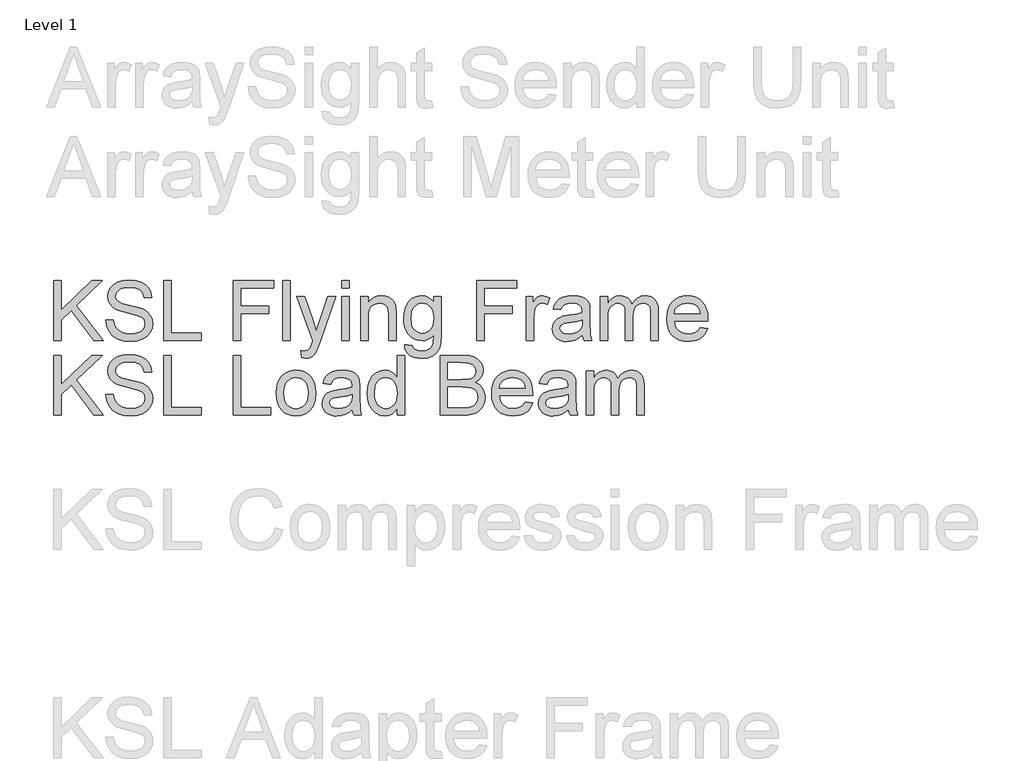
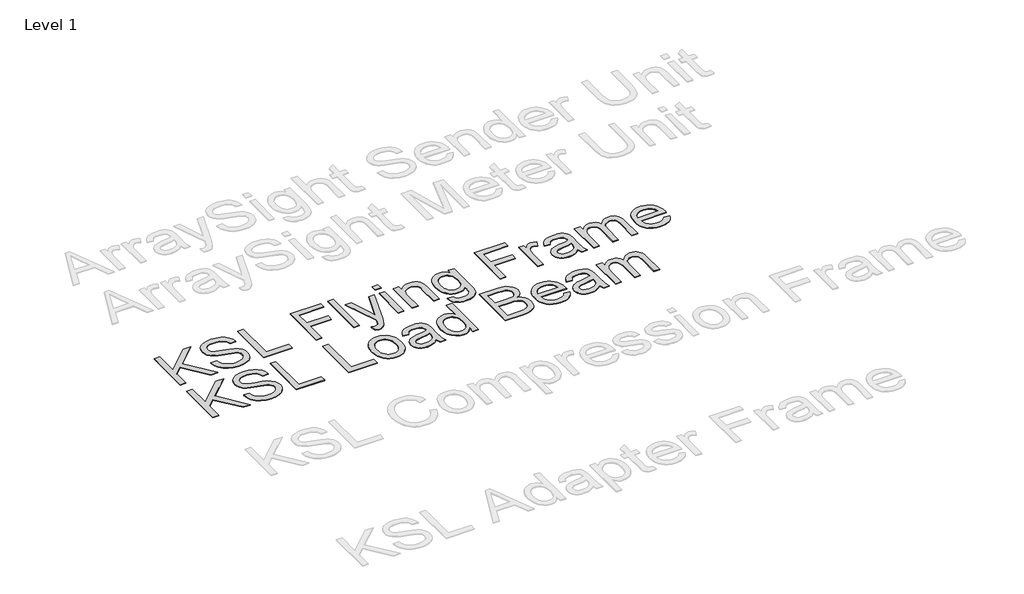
# One storey, part 10 of 52: 2 proxies.
"""IFC4 building model written with IfcOpenShell, lengths in millimetres."""

from ifc_helpers import new_model, si_unit, origin, origin_with_axes, place, context, project, spatial, polyline, outline, extrude, element, save

model = new_model("IFC4")

# Units and contexts
model_context = context("Model", 3, world=origin())
ifc_project = project(units=[si_unit("LENGTHUNIT", "METRE", prefix="MILLI")], contexts=[model_context])

# Site, building, storey
site = spatial("IfcSite", under=ifc_project)
building = spatial("IfcBuilding", under=site)
storey = spatial("IfcBuildingStorey", under=building, Name="Level 1", Elevation=0.0)

# Proxies
placement = place(None, origin())
element("IfcBuildingElementProxy", 1, Name="400mm Arial", ObjectType="400mm Arial", at=placement, inside=storey, context=model_context, shape_type="SweptSolid", body=[
    extrude(outline(polyline([(-18951.0715058, -55722.6117308), (-18951.0715058, -55320.7864902), (-18900.8433507, -55320.7864902), (-18900.8433507, -55517.4807303), (-18694.8294334, -55320.7864902), (-18624.5884978, -55320.7864902), (-18797.5420864, -55485.9900315), (-18618.3099784, -55722.6117308), (-18679.7217461, -55722.6117308), (-18833.1530636, -55519.933277), (-18900.8433507, -55584.4843044), (-18900.8433507, -55722.6117308), (-18951.0715058, -55722.6117308)])), origin_with_axes(), (0.0, 0.0, 1.0), 5.0),
    extrude(outline(polyline([(-18599.4744202, -55584.4843044), (-18549.2462652, -55584.4843044), (-18543.4827806, -55612.3574969), (-18533.0594574, -55634.7615104), (-18516.7990732, -55652.5424735), (-18493.5244056, -55666.5465148), (-18465.0748647, -55675.6332001), (-18433.2898603, -55678.6620952), (-18405.3063032, -55676.3689641), (-18380.8053623, -55669.4895707), (-18360.9519973, -55658.6002637), (-18346.9111678, -55644.2773913), (-18338.5602465, -55627.8330662), (-18335.7766061, -55610.5794006), (-18337.8612707, -55593.7671934), (-18344.1152646, -55579.2358546), (-18356.8194562, -55566.8382314), (-18378.2547138, -55556.4271709), (-18451.3896544, -55537.2482562), (-18499.3982548, -55524.5563274), (-18530.1164014, -55512.4775352), (-18555.1201143, -55495.5794889), (-18572.8397638, -55475.1007245), (-18583.397977, -55451.4827004), (-18586.9173815, -55425.166875), (-18582.5641112, -55395.7485781), (-18569.5043004, -55368.316844), (-18548.0813055, -55345.0667019), (-18518.6384832, -55328.1931811), (-18483.2972862, -55317.9292734), (-18444.1791673, -55314.5079709), (-18401.7991615, -55318.0886889), (-18364.7166564, -55328.8308432), (-18334.2560272, -55346.5137044), (-18311.7416491, -55370.9165435), (-18297.4923531, -55400.5187813), (-18291.8269704, -55433.7998392), (-18342.0551255, -55433.7998392), (-18351.2767008, -55403.8297193), (-18359.6398848, -55391.9716563), (-18370.5046664, -55382.198258), (-18400.5483627, -55369.1016589), (-18442.21713, -55364.7361259), (-18484.866916, -55369.052608), (-18501.1702198, -55374.4482106), (-18514.1257973, -55382.0020542), (-18531.0483691, -55401.0583416), (-18536.6892264, -55423.695347), (-18532.6915754, -55442.996889), (-18520.6986223, -55458.5215092), (-18492.3471832, -55472.4029232), (-18438.6854629, -55486.5786427), (-18383.3069599, -55500.0431238), (-18349.8051728, -55511.7908221), (-18321.1716909, -55530.0132436), (-18301.1956985, -55552.5030963), (-18289.4602629, -55579.0151254), (-18285.548451, -55609.3040763), (-18290.0488741, -55640.2674776), (-18303.5501433, -55669.3914689), (-18325.5004357, -55694.4564955), (-18355.3479282, -55713.2430027), (-18391.2409482, -55724.9784383), (-18431.327823, -55728.8902502), (-18480.5381712, -55724.67187), (-18521.0419789, -55712.0167294), (-18553.3052298, -55690.8757774), (-18577.793908, -55661.1999631), (-18593.5147319, -55625.0494257), (-18599.4744202, -55584.4843044)])), origin_with_axes(), (0.0, 0.0, 1.0), 5.0),
    extrude(outline(polyline([(-18210.2062184, -55722.6117308), (-18210.2062184, -55320.7864902), (-18159.9780633, -55320.7864902), (-18159.9780633, -55672.3835758), (-17959.065443, -55672.3835758), (-17959.065443, -55722.6117308), (-18210.2062184, -55722.6117308)])), origin_with_axes(), (0.0, 0.0, 1.0), 5.0),
    extrude(outline(polyline([(-17745.595784, -55722.6117308), (-17745.595784, -55320.7864902), (-17695.3676289, -55320.7864902), (-17695.3676289, -55672.3835758), (-17494.4550086, -55672.3835758), (-17494.4550086, -55722.6117308), (-17745.595784, -55722.6117308)])), origin_with_axes(), (0.0, 0.0, 1.0), 5.0),
    extrude(outline(polyline([(-17456.7838923, -55575.0665253), (-17454.0676969, -55536.8497174), (-17445.9191107, -55503.9181474), (-17432.3381337, -55476.2718155), (-17413.3247659, -55453.9107216), (-17394.1826394, -55439.6185061), (-17373.0539502, -55429.4097807), (-17349.9386981, -55423.2845455), (-17324.8368833, -55421.2428004), (-17297.1261721, -55423.7290695), (-17272.0703425, -55431.187877), (-17249.6693947, -55443.6192228), (-17229.9233286, -55461.0231068), (-17213.8070315, -55482.810918), (-17202.2953907, -55508.3940451), (-17195.3884063, -55537.7724881), (-17193.0860781, -55570.946247), (-17197.1573055, -55621.6894368), (-17209.3709878, -55660.3170463), (-17229.3715056, -55689.2448339), (-17256.8032397, -55710.8885579), (-17289.3853217, -55724.3898272), (-17324.8368833, -55728.8902502), (-17352.9522648, -55726.4131781), (-17378.2410863, -55718.9819618), (-17400.7033478, -55706.5966013), (-17420.3390493, -55689.2570966), (-17436.2836681, -55667.2577533), (-17447.6726815, -55640.892877), (-17454.5060896, -55610.1624677), (-17456.7838923, -55575.0665253)]), holes=[polyline([(-17406.5557372, -55574.9684234), (-17405.1026033, -55599.3314086), (-17400.7432017, -55620.4263753), (-17393.4775323, -55638.2533237), (-17383.3055951, -55652.8122536), (-17370.9324973, -55664.1215593), (-17357.0633461, -55672.1996348), (-17341.6981415, -55677.0464801), (-17324.8368833, -55678.6620952), (-17308.0614644, -55677.037283), (-17292.7575734, -55672.1628466), (-17278.9252103, -55664.0387858), (-17266.5643753, -55652.6651008), (-17256.3924381, -55637.9620838), (-17249.1267687, -55619.8500269), (-17244.7673671, -55598.3289301), (-17243.3142332, -55573.3987936), (-17244.7765641, -55549.8083607), (-17249.1635569, -55529.2652169), (-17256.4752116, -55511.7693624), (-17266.7115281, -55497.320797), (-17279.1183484, -55486.0114913), (-17292.9415144, -55477.9334159), (-17308.181026, -55473.0865706), (-17324.8368833, -55471.4709555), (-17341.6981415, -55473.0804392), (-17357.0633461, -55477.9088904), (-17370.9324973, -55485.956309), (-17383.3055951, -55497.2226951), (-17393.4775323, -55511.7387055), (-17400.7432017, -55529.534997), (-17405.1026033, -55550.6115697), (-17406.5557372, -55574.9684234)])]), origin_with_axes(), (0.0, 0.0, 1.0), 5.0),
    extrude(outline(polyline([(-16948.2238221, -55684.9406145), (-16972.221991, -55705.5174808), (-16996.9313983, -55718.9819618), (-17022.9161299, -55726.4131781), (-17050.7402715, -55728.8902502), (-17073.1044311, -55727.4003281), (-17092.7156071, -55722.9305619), (-17109.5737995, -55715.4809515), (-17123.6790084, -55705.0514969), (-17134.8166358, -55692.3043858), (-17142.7720839, -55677.9018057), (-17147.5453528, -55661.8437566), (-17149.1364424, -55644.1302385), (-17146.7329467, -55623.3081176), (-17139.5224596, -55604.3989831), (-17128.4001606, -55588.2121753), (-17114.2612293, -55575.5570346), (-17097.6452259, -55565.9921028), (-17079.0917106, -55559.0759213), (-17035.6325842, -55551.5220776), (-16984.2762577, -55543.5758265), (-16948.5181277, -55534.2561493), (-16948.2238221, -55523.0725367), (-16951.6819129, -55500.6562604), (-16962.0561852, -55485.9900315), (-16985.2572763, -55475.1007245), (-17017.581841, -55471.4709555), (-17047.5029099, -55473.8867139), (-17068.3986072, -55481.1339892), (-17082.6479032, -55494.5371566), (-17092.629768, -55515.4205912), (-17142.8579231, -55509.1420718), (-17134.1391198, -55481.6735495), (-17121.1283599, -55460.0911391), (-17102.6116328, -55443.5855002), (-17077.3749279, -55431.3472925), (-17046.5096285, -55423.7689234), (-17011.1071179, -55421.2428004), (-16977.1516097, -55423.4746178), (-16950.2349104, -55430.1700701), (-16929.940087, -55440.2377741), (-16915.8502066, -55452.5863464), (-16906.5060039, -55467.8534492), (-16900.4482137, -55486.6767446), (-16897.9956671, -55530.6263803), (-16897.9956671, -55593.1172685), (-16895.4450186, -55680.3788778), (-16885.4386283, -55722.6117308), (-16935.6667834, -55722.6117308), (-16943.7111363, -55705.1495988), (-16948.2238221, -55684.9406145)]), holes=[polyline([(-16948.2238221, -55584.4843044), (-16981.9708638, -55592.8474884), (-17029.2559629, -55599.8862973), (-17072.4698346, -55608.0287521), (-17083.714761, -55613.5960329), (-17092.0411568, -55621.2725039), (-17097.1915047, -55630.4695538), (-17098.9082874, -55640.5985714), (-17095.1681538, -55655.5345804), (-17083.9477529, -55667.7727881), (-17065.4923395, -55675.9397684), (-17040.0471681, -55678.6620952), (-17013.0691552, -55675.6577255), (-16989.2304019, -55666.6446166), (-16969.9043344, -55653.3640766), (-16956.4643788, -55637.5574136), (-16950.5046905, -55621.2725039), (-16948.5181277, -55598.7090749), (-16948.2238221, -55584.4843044)])]), origin_with_axes(), (0.0, 0.0, 1.0), 5.0),
    extrude(outline(polyline([(-16646.8548917, -55722.6117308), (-16646.8548917, -55675.2285299), (-16661.8828712, -55698.7055325), (-16680.0868986, -55715.4748201), (-16701.4669739, -55725.5363927), (-16726.0230971, -55728.8902502), (-16758.4948145, -55724.0342079), (-16788.2196797, -55709.4660809), (-16813.3828082, -55686.2036761), (-16832.1693154, -55655.2648003), (-16843.8679628, -55617.9002523), (-16847.767512, -55575.3608309), (-16844.1745312, -55533.3487071), (-16833.3955887, -55495.4078106), (-16815.4429474, -55463.6963826), (-16790.3288698, -55440.3726641), (-16759.9540797, -55426.0252663), (-16726.2193008, -55421.2428004), (-16701.6447835, -55424.664103), (-16679.9152203, -55434.9280106), (-16661.4965951, -55450.6610973), (-16646.8548917, -55470.4899368), (-16646.8548917, -55320.7864902), (-16596.6267366, -55320.7864902), (-16596.6267366, -55722.6117308), (-16646.8548917, -55722.6117308)]), holes=[polyline([(-16797.5393569, -55575.1646272), (-16796.1230112, -55599.5214809), (-16791.8739742, -55620.5980536), (-16784.7922458, -55638.3943451), (-16774.877826, -55652.9103555), (-16750.1806814, -55672.2241602), (-16736.3053988, -55677.0526114), (-16721.4123094, -55678.6620952), (-16706.4487092, -55677.1261878), (-16692.6562001, -55672.5184658), (-16668.5844549, -55654.0875779), (-16659.077771, -55640.1785728), (-16652.2872825, -55623.0260748), (-16646.8548917, -55578.9905999), (-16652.3853844, -55530.8471095), (-16659.2985002, -55512.3119883), (-16668.9768623, -55497.4679498), (-16680.6785755, -55486.0942648), (-16693.6617442, -55477.9702041), (-16707.9263686, -55473.0957676), (-16723.4724486, -55471.4709555), (-16738.6598436, -55473.0313883), (-16752.5351262, -55477.7126867), (-16765.0982963, -55485.5148506), (-16776.349354, -55496.4378802), (-16785.6199803, -55510.7208987), (-16792.2418562, -55528.6030293), (-16797.5393569, -55575.1646272)])]), origin_with_axes(), (0.0, 0.0, 1.0), 5.0),
    extrude(outline(polyline([(-16358.043, -55722.6117308), (-16358.043, -55320.7864902), (-16204.7097844, -55320.7864902), (-16162.538245, -55323.7418089), (-16129.6128065, -55332.607765), (-16104.3761016, -55347.6050877), (-16085.2707633, -55368.9545061), (-16073.2410221, -55394.0685837), (-16069.2311083, -55420.3598836), (-16072.60336, -55444.5542562), (-16082.7201148, -55467.3016262), (-16099.6549493, -55487.2040421), (-16123.4814399, -55502.8635524), (-16095.0196362, -55517.725985), (-16073.9890488, -55540.338465), (-16061.0028144, -55569.2049389), (-16056.6740696, -55602.8293532), (-16059.6293883, -55630.8496985), (-16068.4953443, -55656.8344301), (-16081.7268334, -55678.9318753), (-16097.7787512, -55695.2903613), (-16117.4359124, -55707.1361616), (-16141.4831322, -55715.6955493), (-16170.7052253, -55720.8826855), (-16205.8870068, -55722.6117308), (-16358.043, -55722.6117308)]), holes=[polyline([(-16307.8148449, -55484.0279942), (-16216.0896008, -55484.0279942), (-16162.5259823, -55479.7115122), (-16143.7762633, -55472.2680331), (-16130.2995195, -55461.1212087), (-16122.1693274, -55446.4427171), (-16119.4592634, -55428.4042366), (-16121.9853864, -55410.8930536), (-16129.5637555, -55395.6382135), (-16141.8510142, -55383.7310996), (-16158.5038058, -55376.2630951), (-16184.0593418, -55372.3267578), (-16223.0548333, -55371.0146453), (-16307.8148449, -55371.0146453), (-16307.8148449, -55484.0279942)]), polyline([(-16307.8148449, -55672.3835758), (-16204.8078863, -55672.3835758), (-16167.5291774, -55670.4215385), (-16135.9894277, -55659.4831805), (-16124.4134076, -55650.0531387), (-16115.0937304, -55637.1650061), (-16108.9501011, -55621.3951312), (-16106.9022246, -55603.3198625), (-16109.3057203, -55582.3260634), (-16116.5162074, -55564.2753201), (-16129.1100344, -55550.1609142), (-16147.6635497, -55540.9761271), (-16173.9425869, -55535.9361438), (-16209.7129796, -55534.2561493), (-16307.8148449, -55534.2561493), (-16307.8148449, -55672.3835758)])]), origin_with_axes(), (0.0, 0.0, 1.0), 5.0),
    extrude(outline(polyline([(-15787.2863472, -55634.7124595), (-15738.0392108, -55640.9909788), (-15745.5899888, -55660.7155852), (-15755.7833857, -55678.0980094), (-15768.6194017, -55693.1382517), (-15784.0980366, -55705.8363119), (-15802.059875, -55715.9224099), (-15822.3455014, -55723.1267656), (-15869.8881179, -55728.8902502), (-15901.0538542, -55726.4039811), (-15928.8228135, -55718.9451736), (-15953.1949957, -55706.5138279), (-15974.1704008, -55689.1099438), (-15991.0377903, -55667.2178994), (-16003.0859256, -55641.3220726), (-16010.3148068, -55611.4224635), (-16012.7244339, -55577.5190719), (-16010.2902813, -55542.4660492), (-16002.9878237, -55511.5700929), (-15990.8170611, -55484.8312033), (-15973.7779933, -55462.2493801), (-15952.8577705, -55444.3090015), (-15929.0435427, -55431.4944453), (-15902.3353099, -55423.8057116), (-15872.733072, -55421.2428004), (-15844.0842616, -55423.7995803), (-15818.1761721, -55431.4699199), (-15795.0088034, -55444.2538192), (-15774.5821557, -55462.1512783), (-15757.9079042, -55484.6840505), (-15745.9977246, -55511.3738892), (-15738.8516169, -55542.2207945), (-15736.469581, -55577.2247664), (-15736.7638866, -55590.7628238), (-15962.4962788, -55590.7628238), (-15959.5869454, -55610.8062611), (-15953.802001, -55628.3603637), (-15945.1414457, -55643.4251314), (-15933.6052794, -55656.0005643), (-15919.8311644, -55665.914984), (-15904.4567627, -55672.9967124), (-15868.9070992, -55678.6620952), (-15842.1743409, -55676.0378703), (-15819.6599628, -55668.1651956), (-15801.3639649, -55654.5535617), (-15787.2863472, -55634.7124595)]), holes=[polyline([(-15962.4962788, -55540.5346687), (-15786.697736, -55540.5346687), (-15793.4912902, -55513.9981141), (-15806.8086184, -55495.0154032), (-15820.5060914, -55484.7147073), (-15836.0920253, -55477.3570674), (-15853.56642, -55472.9424835), (-15872.9292757, -55471.4709555), (-15906.786682, -55476.1675823), (-15934.7825018, -55490.2574627), (-15954.2434594, -55512.2200178), (-15962.4962788, -55540.5346687)])]), origin_with_axes(), (0.0, 0.0, 1.0), 5.0),
    extrude(outline(polyline([(-15497.8858444, -55684.9406145), (-15521.8840132, -55705.5174808), (-15546.5934205, -55718.9819618), (-15572.5781521, -55726.4131781), (-15600.4022937, -55728.8902502), (-15622.7664533, -55727.4003281), (-15642.3776293, -55722.9305619), (-15659.2358218, -55715.4809515), (-15673.3410306, -55705.0514969), (-15684.478658, -55692.3043858), (-15692.4341061, -55677.9018057), (-15697.207375, -55661.8437566), (-15698.7984647, -55644.1302385), (-15696.394969, -55623.3081176), (-15689.1844819, -55604.3989831), (-15678.0621829, -55588.2121753), (-15663.9232515, -55575.5570346), (-15647.3072481, -55565.9921028), (-15628.7537328, -55559.0759213), (-15585.2946064, -55551.5220776), (-15533.9382799, -55543.5758265), (-15498.18015, -55534.2561493), (-15497.8858444, -55523.0725367), (-15501.3439351, -55500.6562604), (-15511.7182074, -55485.9900315), (-15534.9192985, -55475.1007245), (-15567.2438632, -55471.4709555), (-15597.1649321, -55473.8867139), (-15618.0606295, -55481.1339892), (-15632.3099254, -55494.5371566), (-15642.2917902, -55515.4205912), (-15692.5199453, -55509.1420718), (-15683.801142, -55481.6735495), (-15670.7903821, -55460.0911391), (-15652.273655, -55443.5855002), (-15627.0369501, -55431.3472925), (-15596.1716507, -55423.7689234), (-15560.7691401, -55421.2428004), (-15526.8136319, -55423.4746178), (-15499.8969326, -55430.1700701), (-15479.6021092, -55440.2377741), (-15465.5122288, -55452.5863464), (-15456.1680261, -55467.8534492), (-15450.1102359, -55486.6767446), (-15447.6576893, -55530.6263803), (-15447.6576893, -55593.1172685), (-15445.1070408, -55680.3788778), (-15435.1006505, -55722.6117308), (-15485.3288056, -55722.6117308), (-15493.3731586, -55705.1495988), (-15497.8858444, -55684.9406145)]), holes=[polyline([(-15497.8858444, -55584.4843044), (-15531.6328861, -55592.8474884), (-15578.9179852, -55599.8862973), (-15622.1318569, -55608.0287521), (-15633.3767832, -55613.5960329), (-15641.703179, -55621.2725039), (-15646.8535269, -55630.4695538), (-15648.5703096, -55640.5985714), (-15644.830176, -55655.5345804), (-15633.6097751, -55667.7727881), (-15615.1543617, -55675.9397684), (-15589.7091904, -55678.6620952), (-15562.7311774, -55675.6577255), (-15538.8924241, -55666.6446166), (-15519.5663566, -55653.3640766), (-15506.1264011, -55637.5574136), (-15500.1667127, -55621.2725039), (-15498.18015, -55598.7090749), (-15497.8858444, -55584.4843044)])]), origin_with_axes(), (0.0, 0.0, 1.0), 5.0),
    extrude(outline(polyline([(-15378.5939761, -55722.6117308), (-15378.5939761, -55427.5213198), (-15328.365821, -55427.5213198), (-15328.365821, -55476.0817431), (-15313.2581337, -55453.7758315), (-15293.8339644, -55436.3014367), (-15270.7555005, -55425.0074595), (-15244.6849298, -55421.2428004), (-15216.7504236, -55425.0810359), (-15194.3586729, -55436.5957423), (-15177.6323048, -55455.0266303), (-15166.6939468, -55479.6134103), (-15148.3856862, -55454.0762685), (-15127.5022516, -55435.8354529), (-15104.0436431, -55424.8909635), (-15078.0098605, -55421.2428004), (-15057.9020438, -55422.7603136), (-15040.2529051, -55427.3128533), (-15025.0624444, -55434.9004195), (-15012.3306617, -55445.5230121), (-15002.2660234, -55459.3032585), (-14995.0769961, -55476.363786), (-14990.7635797, -55496.7045947), (-14989.3257742, -55520.3256844), (-14989.3257742, -55722.6117308), (-15039.5539293, -55722.6117308), (-15039.5539293, -55541.9080948), (-15040.718889, -55516.8553309), (-15044.2137679, -55499.9695474), (-15050.7620674, -55488.40579), (-15061.0872888, -55479.3191047), (-15074.3678288, -55473.4329928), (-15089.7820844, -55471.4709555), (-15116.9930893, -55476.4986761), (-15139.1763736, -55491.5818379), (-15147.7817466, -55503.1517266), (-15153.9284416, -55517.7505105), (-15158.8457976, -55556.0347634), (-15158.8457976, -55722.6117308), (-15209.0739527, -55722.6117308), (-15209.0739527, -55536.3162885), (-15211.9802204, -55507.9157985), (-15220.6990237, -55487.6577633), (-15236.0397029, -55475.5176574), (-15258.8115984, -55471.4709555), (-15278.1621914, -55474.1687568), (-15295.9922054, -55482.2621607), (-15310.7074852, -55495.5549634), (-15320.7138755, -55513.8509613), (-15326.4528346, -55539.234819), (-15328.365821, -55573.7912011), (-15328.365821, -55722.6117308), (-15378.5939761, -55722.6117308)])), origin_with_axes(), (0.0, 0.0, 1.0), 5.0),
])
element("IfcBuildingElementProxy", 2, Name="400mm Arial", ObjectType="400mm Arial", at=placement, inside=storey, context=model_context, shape_type="SweptSolid", body=[
    extrude(outline(polyline([(-18951.0715058, -55222.6117308), (-18951.0715058, -54820.7864902), (-18900.8433507, -54820.7864902), (-18900.8433507, -55017.4807303), (-18694.8294334, -54820.7864902), (-18624.5884978, -54820.7864902), (-18797.5420864, -54985.9900315), (-18618.3099784, -55222.6117308), (-18679.7217461, -55222.6117308), (-18833.1530636, -55019.933277), (-18900.8433507, -55084.4843044), (-18900.8433507, -55222.6117308), (-18951.0715058, -55222.6117308)])), origin_with_axes(), (0.0, 0.0, 1.0), 5.0),
    extrude(outline(polyline([(-18599.4744202, -55084.4843044), (-18549.2462652, -55084.4843044), (-18543.4827806, -55112.3574969), (-18533.0594574, -55134.7615104), (-18516.7990732, -55152.5424735), (-18493.5244056, -55166.5465148), (-18465.0748647, -55175.6332001), (-18433.2898603, -55178.6620952), (-18405.3063032, -55176.3689641), (-18380.8053623, -55169.4895707), (-18360.9519973, -55158.6002637), (-18346.9111678, -55144.2773913), (-18338.5602465, -55127.8330662), (-18335.7766061, -55110.5794006), (-18337.8612707, -55093.7671934), (-18344.1152646, -55079.2358546), (-18356.8194562, -55066.8382314), (-18378.2547138, -55056.4271709), (-18451.3896544, -55037.2482562), (-18499.3982548, -55024.5563274), (-18530.1164014, -55012.4775352), (-18555.1201143, -54995.5794889), (-18572.8397638, -54975.1007245), (-18583.397977, -54951.4827004), (-18586.9173815, -54925.166875), (-18582.5641112, -54895.7485781), (-18569.5043004, -54868.316844), (-18548.0813055, -54845.0667019), (-18518.6384832, -54828.1931811), (-18483.2972862, -54817.9292734), (-18444.1791673, -54814.5079709), (-18401.7991615, -54818.0886889), (-18364.7166564, -54828.8308432), (-18334.2560272, -54846.5137044), (-18311.7416491, -54870.9165435), (-18297.4923531, -54900.5187813), (-18291.8269704, -54933.7998392), (-18342.0551255, -54933.7998392), (-18351.2767008, -54903.8297193), (-18359.6398848, -54891.9716563), (-18370.5046664, -54882.198258), (-18400.5483627, -54869.1016589), (-18442.21713, -54864.7361259), (-18484.866916, -54869.052608), (-18501.1702198, -54874.4482106), (-18514.1257973, -54882.0020542), (-18531.0483691, -54901.0583416), (-18536.6892264, -54923.695347), (-18532.6915754, -54942.996889), (-18520.6986223, -54958.5215092), (-18492.3471832, -54972.4029232), (-18438.6854629, -54986.5786427), (-18383.3069599, -55000.0431238), (-18349.8051728, -55011.7908221), (-18321.1716909, -55030.0132436), (-18301.1956985, -55052.5030963), (-18289.4602629, -55079.0151254), (-18285.548451, -55109.3040763), (-18290.0488741, -55140.2674776), (-18303.5501433, -55169.3914689), (-18325.5004357, -55194.4564955), (-18355.3479282, -55213.2430027), (-18391.2409482, -55224.9784383), (-18431.327823, -55228.8902502), (-18480.5381712, -55224.67187), (-18521.0419789, -55212.0167294), (-18553.3052298, -55190.8757774), (-18577.793908, -55161.1999631), (-18593.5147319, -55125.0494257), (-18599.4744202, -55084.4843044)])), origin_with_axes(), (0.0, 0.0, 1.0), 5.0),
    extrude(outline(polyline([(-18210.2062184, -55222.6117308), (-18210.2062184, -54820.7864902), (-18159.9780633, -54820.7864902), (-18159.9780633, -55172.3835758), (-17959.065443, -55172.3835758), (-17959.065443, -55222.6117308), (-18210.2062184, -55222.6117308)])), origin_with_axes(), (0.0, 0.0, 1.0), 5.0),
    extrude(outline(polyline([(-17745.595784, -55222.6117308), (-17745.595784, -54820.7864902), (-17475.6194504, -54820.7864902), (-17475.6194504, -54871.0146453), (-17695.3676289, -54871.0146453), (-17695.3676289, -54990.3065136), (-17507.0120474, -54990.3065136), (-17507.0120474, -55040.5346687), (-17695.3676289, -55040.5346687), (-17695.3676289, -55222.6117308), (-17745.595784, -55222.6117308)])), origin_with_axes(), (0.0, 0.0, 1.0), 5.0),
    extrude(outline(polyline([(-17412.8342566, -55222.6117308), (-17412.8342566, -54820.7864902), (-17362.6061015, -54820.7864902), (-17362.6061015, -55222.6117308), (-17412.8342566, -55222.6117308)])), origin_with_axes(), (0.0, 0.0, 1.0), 5.0),
    extrude(outline(polyline([(-17287.2638689, -55335.6250798), (-17293.5423883, -55287.2608601), (-17268.0359033, -55291.6754441), (-17254.6204732, -55290.2897552), (-17244.19715, -55286.1326887), (-17229.5799721, -55270.6816449), (-17215.8457109, -55233.6972416), (-17211.9216363, -55221.5326103), (-17318.6564658, -54927.5213198), (-17265.6814585, -54927.5213198), (-17209.0766822, -55091.351435), (-17189.3582073, -55156.883481), (-17169.6397323, -55099.0033805), (-17111.4653261, -54927.5213198), (-17058.8827263, -54927.5213198), (-17161.5953793, -55229.6750652), (-17188.2790867, -55295.2071112), (-17201.9397715, -55316.127334), (-17217.4153407, -55330.6218846), (-17235.3925076, -55339.0831705), (-17256.557985, -55341.9035991), (-17287.2638689, -55335.6250798)])), origin_with_axes(), (0.0, 0.0, 1.0), 5.0),
    extrude(outline(polyline([(-17017.2875354, -54871.0146453), (-17017.2875354, -54820.7864902), (-16967.0593803, -54820.7864902), (-16967.0593803, -54871.0146453), (-17017.2875354, -54871.0146453)])), origin_with_axes(), (0.0, 0.0, 1.0), 5.0),
    extrude(outline(polyline([(-17017.2875354, -55222.6117308), (-17017.2875354, -54927.5213198), (-16967.0593803, -54927.5213198), (-16967.0593803, -55222.6117308), (-17017.2875354, -55222.6117308)])), origin_with_axes(), (0.0, 0.0, 1.0), 5.0),
    extrude(outline(polyline([(-16891.7171477, -55222.6117308), (-16891.7171477, -54927.5213198), (-16841.4889926, -54927.5213198), (-16841.4889926, -54968.7241032), (-16824.0391233, -54947.9510332), (-16803.0821123, -54933.1131261), (-16778.6179596, -54924.2103818), (-16750.6466653, -54921.2428004), (-16725.888207, -54923.6340334), (-16703.2144134, -54930.8077323), (-16684.3052788, -54941.8687176), (-16670.8407978, -54955.9218098), (-16661.7050616, -54972.9302207), (-16655.7821614, -54992.8571621), (-16653.1334111, -55041.4175855), (-16653.1334111, -55222.6117308), (-16703.3615662, -55222.6117308), (-16703.3615662, -55048.1866142), (-16704.8085687, -55022.2141453), (-16709.1495762, -55003.7464692), (-16717.157141, -54990.5149801), (-16729.6038151, -54980.2510724), (-16745.557631, -54973.6659847), (-16764.0866208, -54971.4709555), (-16793.5049177, -54976.4005742), (-16818.582207, -54991.1894304), (-16828.6039257, -55003.2620912), (-16835.7622962, -55019.7615987), (-16840.0573185, -55040.6879529), (-16841.4889926, -55066.0411537), (-16841.4889926, -55222.6117308), (-16891.7171477, -55222.6117308)])), origin_with_axes(), (0.0, 0.0, 1.0), 5.0),
    extrude(outline(polyline([(-16596.6267366, -55247.7258084), (-16546.3985815, -55254.0043278), (-16540.8558262, -55269.7006262), (-16530.1136719, -55280.4918314), (-16508.9972454, -55288.8795409), (-16481.3570448, -55291.6754441), (-16451.8774343, -55288.5116589), (-16429.9516673, -55279.0203034), (-16414.7458782, -55263.8145143), (-16405.426201, -55243.5074282), (-16401.9926357, -55184.9406145), (-16418.706741, -55201.4217279), (-16437.3583582, -55213.1939518), (-16457.9474872, -55220.2572861), (-16480.474128, -55222.6117308), (-16508.013161, -55219.87101), (-16532.2596502, -55211.6488474), (-16553.2135955, -55197.9452431), (-16570.874997, -55178.760197), (-16584.8882353, -55155.7430469), (-16594.8976912, -55130.5431302), (-16600.9033648, -55103.160447), (-16602.905256, -55073.5949973), (-16599.3122752, -55033.0421387), (-16588.5333327, -54995.7511672), (-16570.9485734, -54964.1501038), (-16546.9381418, -54940.6669697), (-16517.3236412, -54926.0988427), (-16482.9266746, -54921.2428004), (-16459.4374093, -54923.9896526), (-16438.1186476, -54932.2302093), (-16418.9703898, -54945.9644705), (-16401.9926357, -54965.1924361), (-16401.9926357, -54927.5213198), (-16351.7644806, -54927.5213198), (-16351.7644806, -55182.2918642), (-16355.1980459, -55241.1161952), (-16365.4987418, -55279.8541693), (-16383.2429167, -55305.5445953), (-16409.0069191, -55325.226282), (-16442.2266632, -55337.7342699), (-16482.3380635, -55341.9035991), (-16506.9463032, -55340.4351369), (-16529.0713396, -55336.02975), (-16548.7131724, -55328.6874385), (-16565.8718018, -55318.4082024), (-16579.731756, -55305.179779), (-16589.4775632, -55288.9899055), (-16595.1092234, -55269.838582), (-16596.6267366, -55247.7258084)]), holes=[polyline([(-16552.6771009, -55070.161432), (-16547.3182865, -55116.2325206), (-16540.6197685, -55133.8693966), (-16531.2418433, -55147.9071604), (-16519.8405672, -55158.6155921), (-16507.0719963, -55166.2644719), (-16492.9361306, -55170.8537998), (-16477.4329702, -55172.3835758), (-16462.0830939, -55170.8629969), (-16448.0146733, -55166.3012601), (-16435.2277083, -55158.6983656), (-16423.7221989, -55148.0543132), (-16414.215515, -55134.1545051), (-16407.4250265, -55116.7843436), (-16401.9926357, -55071.63296), (-16407.584442, -55028.0879945), (-16414.5741999, -55010.8864456), (-16424.359861, -54996.7321858), (-16436.1136908, -54985.6803975), (-16449.0079547, -54977.7862631), (-16463.0426528, -54973.0497824), (-16478.2177851, -54971.4709555), (-16493.1384657, -54973.0252569), (-16506.900318, -54977.6881612), (-16530.9475377, -54996.3397783), (-16540.4542216, -55010.2794403), (-16547.2447101, -55027.2296032), (-16552.6771009, -55070.161432)])]), origin_with_axes(), (0.0, 0.0, 1.0), 5.0),
    extrude(outline(polyline([(-16113.180744, -55222.6117308), (-16113.180744, -54820.7864902), (-15843.2044105, -54820.7864902), (-15843.2044105, -54871.0146453), (-16062.952589, -54871.0146453), (-16062.952589, -54990.3065136), (-15874.5970074, -54990.3065136), (-15874.5970074, -55040.5346687), (-16062.952589, -55040.5346687), (-16062.952589, -55222.6117308), (-16113.180744, -55222.6117308)])), origin_with_axes(), (0.0, 0.0, 1.0), 5.0),
    extrude(outline(polyline([(-15780.4192167, -55222.6117308), (-15780.4192167, -54927.5213198), (-15736.469581, -54927.5213198), (-15736.469581, -54971.1766499), (-15720.2337222, -54945.8663686), (-15705.2731878, -54930.9548851), (-15690.2636024, -54923.6708216), (-15673.8805909, -54921.2428004), (-15648.8646152, -54925.1178241), (-15623.456232, -54936.7428951), (-15640.231651, -54981.7716513), (-15657.8899868, -54974.0461294), (-15675.5483226, -54971.4709555), (-15690.5456452, -54973.9480276), (-15703.9488126, -54981.3792439), (-15714.776806, -54993.2005187), (-15722.0486068, -55008.8477662), (-15728.1554479, -55036.9048997), (-15730.1910616, -55067.5126817), (-15730.1910616, -55222.6117308), (-15780.4192167, -55222.6117308)])), origin_with_axes(), (0.0, 0.0, 1.0), 5.0),
    extrude(outline(polyline([(-15403.7080536, -55184.9406145), (-15427.7062224, -55205.5174808), (-15452.4156298, -55218.9819618), (-15478.4003613, -55226.4131781), (-15506.2245029, -55228.8902502), (-15528.5886625, -55227.4003281), (-15548.1998386, -55222.9305619), (-15565.058031, -55215.4809515), (-15579.1632398, -55205.0514969), (-15590.3008672, -55192.3043858), (-15598.2563154, -55177.9018057), (-15603.0295843, -55161.8437566), (-15604.6206739, -55144.1302385), (-15602.2171782, -55123.3081176), (-15595.0066911, -55104.3989831), (-15583.8843921, -55088.2121753), (-15569.7454608, -55075.5570346), (-15553.1294573, -55065.9921028), (-15534.575942, -55059.0759213), (-15491.1168156, -55051.5220776), (-15439.7604891, -55043.5758265), (-15404.0023592, -55034.2561493), (-15403.7080536, -55023.0725367), (-15407.1661443, -55000.6562604), (-15417.5404166, -54985.9900315), (-15440.7415078, -54975.1007245), (-15473.0660724, -54971.4709555), (-15502.9871414, -54973.8867139), (-15523.8828387, -54981.1339892), (-15538.1321346, -54994.5371566), (-15548.1139994, -55015.4205912), (-15598.3421545, -55009.1420718), (-15589.6233512, -54981.6735495), (-15576.6125913, -54960.0911391), (-15558.0958642, -54943.5855002), (-15532.8591594, -54931.3472925), (-15501.99386, -54923.7689234), (-15466.5913493, -54921.2428004), (-15432.6358411, -54923.4746178), (-15405.7191418, -54930.1700701), (-15385.4243184, -54940.2377741), (-15371.334438, -54952.5863464), (-15361.9902353, -54967.8534492), (-15355.9324452, -54986.6767446), (-15353.4798985, -55030.6263803), (-15353.4798985, -55093.1172685), (-15350.92925, -55180.3788778), (-15340.9228598, -55222.6117308), (-15391.1510148, -55222.6117308), (-15399.1953678, -55205.1495988), (-15403.7080536, -55184.9406145)]), holes=[polyline([(-15403.7080536, -55084.4843044), (-15437.4550953, -55092.8474884), (-15484.7401944, -55099.8862973), (-15527.9540661, -55108.0287521), (-15539.1989924, -55113.5960329), (-15547.5253882, -55121.2725039), (-15552.6757362, -55130.4695538), (-15554.3925188, -55140.5985714), (-15550.6523852, -55155.5345804), (-15539.4319843, -55167.7727881), (-15520.9765709, -55175.9397684), (-15495.5313996, -55178.6620952), (-15468.5533866, -55175.6577255), (-15444.7146333, -55166.6446166), (-15425.3885658, -55153.3640766), (-15411.9486103, -55137.5574136), (-15405.988922, -55121.2725039), (-15404.0023592, -55098.7090749), (-15403.7080536, -55084.4843044)])]), origin_with_axes(), (0.0, 0.0, 1.0), 5.0),
    extrude(outline(polyline([(-15284.4161853, -55222.6117308), (-15284.4161853, -54927.5213198), (-15234.1880302, -54927.5213198), (-15234.1880302, -54976.0817431), (-15219.0803429, -54953.7758315), (-15199.6561736, -54936.3014367), (-15176.5777098, -54925.0074595), (-15150.507139, -54921.2428004), (-15122.5726329, -54925.0810359), (-15100.1808821, -54936.5957423), (-15083.4545141, -54955.0266303), (-15072.5161561, -54979.6134103), (-15054.2078954, -54954.0762685), (-15033.3244609, -54935.8354529), (-15009.8658523, -54924.8909635), (-14983.8320698, -54921.2428004), (-14963.724253, -54922.7603136), (-14946.0751143, -54927.3128533), (-14930.8846536, -54934.9004195), (-14918.1528709, -54945.5230121), (-14908.0882326, -54959.3032585), (-14900.8992053, -54976.363786), (-14896.5857889, -54996.7045947), (-14895.1479835, -55020.3256844), (-14895.1479835, -55222.6117308), (-14945.3761385, -55222.6117308), (-14945.3761385, -55041.9080948), (-14946.5410982, -55016.8553309), (-14950.0359771, -54999.9695474), (-14956.5842767, -54988.40579), (-14966.909498, -54979.3191047), (-14980.190038, -54973.4329928), (-14995.6042936, -54971.4709555), (-15022.8152985, -54976.4986761), (-15044.9985828, -54991.5818379), (-15053.6039558, -55003.1517266), (-15059.7506508, -55017.7505105), (-15064.6680068, -55056.0347634), (-15064.6680068, -55222.6117308), (-15114.8961619, -55222.6117308), (-15114.8961619, -55036.3162885), (-15117.8024297, -55007.9157985), (-15126.521233, -54987.6577633), (-15141.8619122, -54975.5176574), (-15164.6338077, -54971.4709555), (-15183.9844006, -54974.1687568), (-15201.8144146, -54982.2621607), (-15216.5296944, -54995.5549634), (-15226.5360847, -55013.8509613), (-15232.2750438, -55039.234819), (-15234.1880302, -55073.7912011), (-15234.1880302, -55222.6117308), (-15284.4161853, -55222.6117308)])), origin_with_axes(), (0.0, 0.0, 1.0), 5.0),
    extrude(outline(polyline([(-14613.2032224, -55134.7124595), (-14563.9560859, -55140.9909788), (-14571.5068639, -55160.7155852), (-14581.7002608, -55178.0980094), (-14594.5362768, -55193.1382517), (-14610.0149117, -55205.8363119), (-14627.9767501, -55215.9224099), (-14648.2623765, -55223.1267656), (-14695.804993, -55228.8902502), (-14726.9707294, -55226.4039811), (-14754.7396886, -55218.9451736), (-14779.1118708, -55206.5138279), (-14800.0872759, -55189.1099438), (-14816.9546654, -55167.2178994), (-14829.0028007, -55141.3220726), (-14836.2316819, -55111.4224635), (-14838.641309, -55077.5190719), (-14836.2071565, -55042.4660492), (-14828.9046989, -55011.5700929), (-14816.7339362, -54984.8312033), (-14799.6948684, -54962.2493801), (-14778.7746457, -54944.3090015), (-14754.9604178, -54931.4944453), (-14728.252185, -54923.8057116), (-14698.6499471, -54921.2428004), (-14670.0011367, -54923.7995803), (-14644.0930472, -54931.4699199), (-14620.9256786, -54944.2538192), (-14600.4990308, -54962.1512783), (-14583.8247794, -54984.6840505), (-14571.9145998, -55011.3738892), (-14564.768492, -55042.2207945), (-14562.3864561, -55077.2247664), (-14562.6807617, -55090.7628238), (-14788.4131539, -55090.7628238), (-14785.5038205, -55110.8062611), (-14779.7188761, -55128.3603637), (-14771.0583208, -55143.4251314), (-14759.5221546, -55156.0005643), (-14745.7480395, -55165.914984), (-14730.3736378, -55172.9967124), (-14694.8239744, -55178.6620952), (-14668.091216, -55176.0378703), (-14645.5768379, -55168.1651956), (-14627.28084, -55154.5535617), (-14613.2032224, -55134.7124595)]), holes=[polyline([(-14788.4131539, -55040.5346687), (-14612.6146112, -55040.5346687), (-14619.4081653, -55013.9981141), (-14632.7254936, -54995.0154032), (-14646.4229665, -54984.7147073), (-14662.0089004, -54977.3570674), (-14679.4832952, -54972.9424835), (-14698.8461508, -54971.4709555), (-14732.7035571, -54976.1675823), (-14760.699377, -54990.2574627), (-14780.1603345, -55012.2200178), (-14788.4131539, -55040.5346687)])]), origin_with_axes(), (0.0, 0.0, 1.0), 5.0),
])

save(model, "model.ifc")
